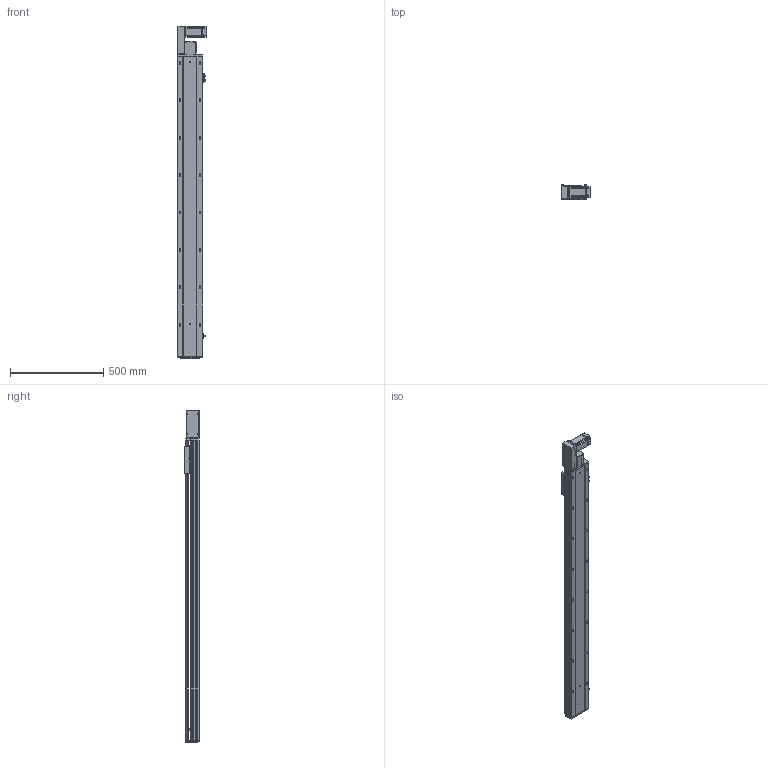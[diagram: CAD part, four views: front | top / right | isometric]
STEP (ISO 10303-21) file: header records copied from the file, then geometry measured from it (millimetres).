
FILE_DESCRIPTION (( 'STEP AP203' ), '1' );
FILE_NAME ('RY140-T-300-LK.SLDASM_1350.step', '2021-03-01T06:36:04', ( '盈信电脑' ), ( '东莞市道滘镇水果街19号' ), 'SwSTEP 2.0', 'SolidWorks 2012', '' );
FILE_SCHEMA (( 'CONFIG_CONTROL_DESIGN' ));
Products named in the file (18): 覜茼ん672; RY140綴裔啣; RY140-T-300-DL倰第奻裔啣_1350; RY140肮祭謫臏賑輸; RY140-T-300-LK.SLDASM_1350; RY140-T翋肮謫裔啣; RY140-T萇儂欶; 滅袉蝶18-10; 侂狟400W侜督萇儂; RY120-T蹟翐M4; RY120-T主同步轮轴承压盖; 15; RY140-T萇儂假蚾啣; RY140-T翋肮祭謫盓傅釱; RY120-T肮祭湍揤踡輸1; RY120外置感应片(140共用）; RY120-T肮祭湍揤踡輸2; RY140-T-300-DL倰第菁釱_1350
Assembly tree (23 placements, depth 3):
  RY140-T-300-LK.SLDASM_1350
    RY140-T-300-DL倰第菁釱_1350
    RY140肮祭謫臏賑輸
    RY140-T-300-DL倰第奻裔啣_1350
    RY140綴裔啣
    覜茼ん672  x3
    RY120外置感应片(140共用）
    RY120-T肮祭湍揤踡輸2
    RY120-T肮祭湍揤踡輸1
    RY140-T翋肮祭謫盓傅釱
    RY140-T萇儂假蚾啣
    侂狟400W侜督萇儂
      15
    RY120-T主同步轮轴承压盖
    RY120-T蹟翐M4  x4
    RY140-T萇儂欶
    滅袉蝶18-10  x2
    RY140-T翋肮謫裔啣
Bounding box: 157 x 78 x 1776.5 mm (x, y, z)
Volume: 4835464.4 mm3; surface area: 1865852.3 mm2
Topology: 22 solids, 22 shells, 2735 faces, 7477 edges, 4780 vertices
Faces by surface type: plane 1381, cylinder 1008, cone 246, bspline 100
Entity records: 86289 total; most frequent: CARTESIAN_POINT 20975, ORIENTED_EDGE 13394, DIRECTION 12789, EDGE_CURVE 6697, VERTEX_POINT 4379, LINE 4269, VECTOR 4269, AXIS2_PLACEMENT_3D 4260
